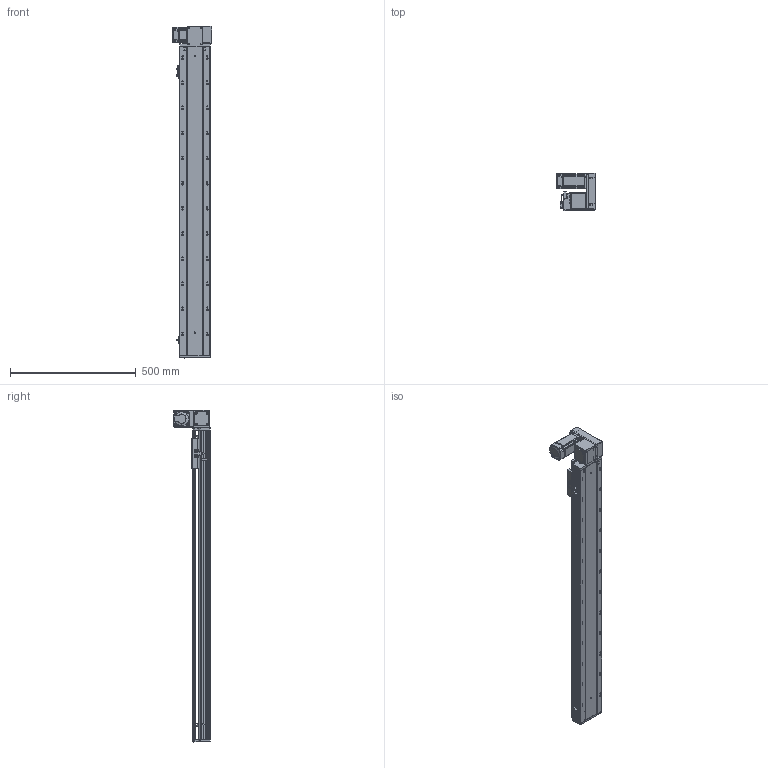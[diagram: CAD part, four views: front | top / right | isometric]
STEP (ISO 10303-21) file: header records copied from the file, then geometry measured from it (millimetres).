
FILE_DESCRIPTION (( 'STEP AP203' ), '1' );
FILE_NAME ('RY120-T-300-UR.SLDASM_1000.step', '2021-03-01T05:56:40', ( '盈信电脑' ), ( '东莞市道滘镇水果街19号' ), 'SwSTEP 2.0', 'SolidWorks 2012', '' );
FILE_SCHEMA (( 'CONFIG_CONTROL_DESIGN' ));
Products named in the file (17): 覜茼ん672; RY120-T肮祭湍揤踡輸1; RY120外置感应片(140共用）; RY120綴裔啣; RY120-T-300-UR倰第奻裔啣_1000; RY120-T-300-UR倰第菁釱_1000; RY120肮祭湍臏賑輸; RY120-T-300-UR.SLDASM_1000; 15; RY120-T蹟翐M4; RY120-T萇儂欶; RY120-T主同步轮轴承压盖; RY120-T萇儂假蚾啣; RY120-T翋肮祭謫裔啣; 滅袉蝶18-10; RY120-T翋肮祭盓傅釱; RY120-T肮祭湍揤踡輸2
Assembly tree (22 placements, depth 2):
  RY120-T-300-UR.SLDASM_1000
    RY120-T-300-UR倰第菁釱_1000
    RY120-T-300-UR倰第奻裔啣_1000
    RY120肮祭湍臏賑輸
    RY120綴裔啣
    覜茼ん672  x3
    RY120外置感应片(140共用）
    RY120-T肮祭湍揤踡輸1
    RY120-T肮祭湍揤踡輸2
    RY120-T翋肮祭盓傅釱
    RY120-T萇儂假蚾啣
    滅袉蝶18-10  x2
    RY120-T翋肮祭謫裔啣
    15
    RY120-T蹟翐M4  x4
    RY120-T萇儂欶
    RY120-T主同步轮轴承压盖
Bounding box: 155.5 x 146 x 1321 mm (x, y, z)
Volume: 3608952.8 mm3; surface area: 1352624 mm2
Topology: 23 solids, 23 shells, 3022 faces, 8320 edges, 5350 vertices
Faces by surface type: plane 1462, cylinder 1212, cone 259, bspline 89
Entity records: 98587 total; most frequent: CARTESIAN_POINT 26408, ORIENTED_EDGE 15064, DIRECTION 13982, EDGE_CURVE 7532, VERTEX_POINT 4937, AXIS2_PLACEMENT_3D 4719, VECTOR 4544, LINE 4544
